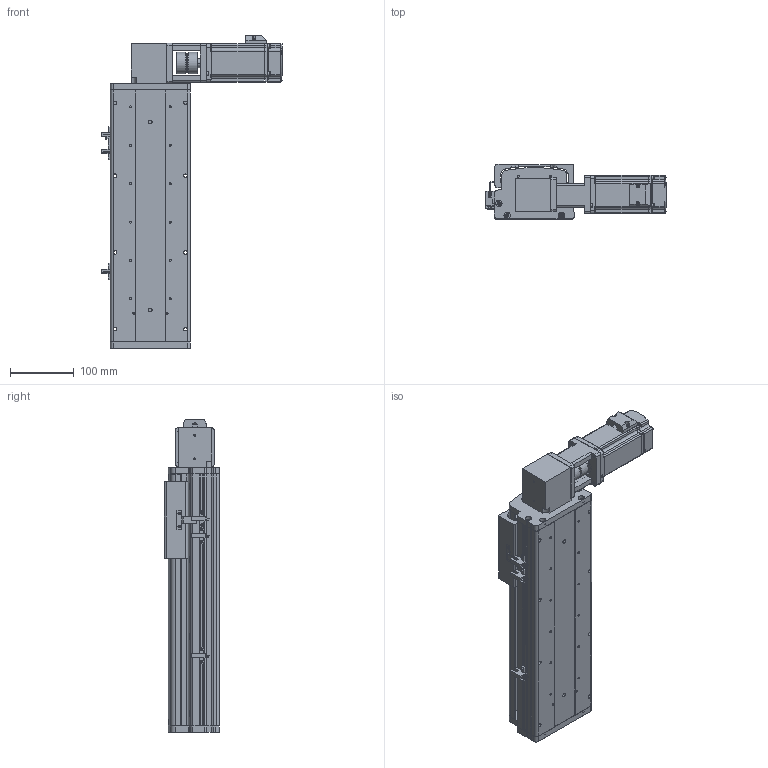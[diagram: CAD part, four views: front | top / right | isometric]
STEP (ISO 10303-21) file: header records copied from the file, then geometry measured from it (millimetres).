
FILE_DESCRIPTION (( 'STEP AP214' ), '1' );
FILE_NAME ('KSD125B-S200-MRT-CM.STEP', '2017-10-21T06:46:01', ( '微软用户' ), ( '微软中国' ), 'SwSTEP 2.0', 'SolidWorks 2014', '' );
FILE_SCHEMA (( 'AUTOMOTIVE_DESIGN' ));
Length unit declared in the file: millimetre
Products named in the file (16): U倰嫖萇EEㄜSX672; KSD125模组同步带-防撞垫1; 100宽安装板同步带带电机座400W,86; 前端板-125宽模组同步带; 125模组同步带-尾端板1; KSD125模组同步带-滑动座1; KSD125B-S200-MRT-CM; 100宽马达安装板同步带左; KSD125模组200行程同步带-防尘盖; 125模组200行程同步带-底板; MHMD042G1CA_2_03; KSD125模组同步带-防撞垫2; CS-34X32-10X14; 100遵鎮湛假蚾啣1 ; 覜茼え68遵圉猾敕; U倰嫖萇假蚾璃
Assembly tree (19 placements, depth 2):
  KSD125B-S200-MRT-CM
    KSD125模组同步带-滑动座1
    125模组同步带-尾端板1
    前端板-125宽模组同步带
    100宽安装板同步带带电机座400W,86
    KSD125模组同步带-防撞垫1
    U倰嫖萇EEㄜSX672  x3
    U倰嫖萇假蚾璃  x3
    覜茼え68遵圉猾敕
    100遵鎮湛假蚾啣1 
    CS-34X32-10X14
    KSD125模组同步带-防撞垫2
    MHMD042G1CA_2_03
    125模组200行程同步带-底板
    KSD125模组200行程同步带-防尘盖
    100宽马达安装板同步带左
Bounding box: 282.7 x 86 x 489 mm (x, y, z)
Volume: 1773604.9 mm3; surface area: 615109.3 mm2
Topology: 18 solids, 21 shells, 1602 faces, 4582 edges, 3020 vertices
Faces by surface type: cylinder 805, plane 694, cone 81, bspline 22
Entity records: 55734 total; most frequent: CARTESIAN_POINT 11348, DIRECTION 8137, ORIENTED_EDGE 7684, EDGE_CURVE 3920, AXIS2_PLACEMENT_3D 2997, VERTEX_POINT 2612, LINE 2143, VECTOR 2143
